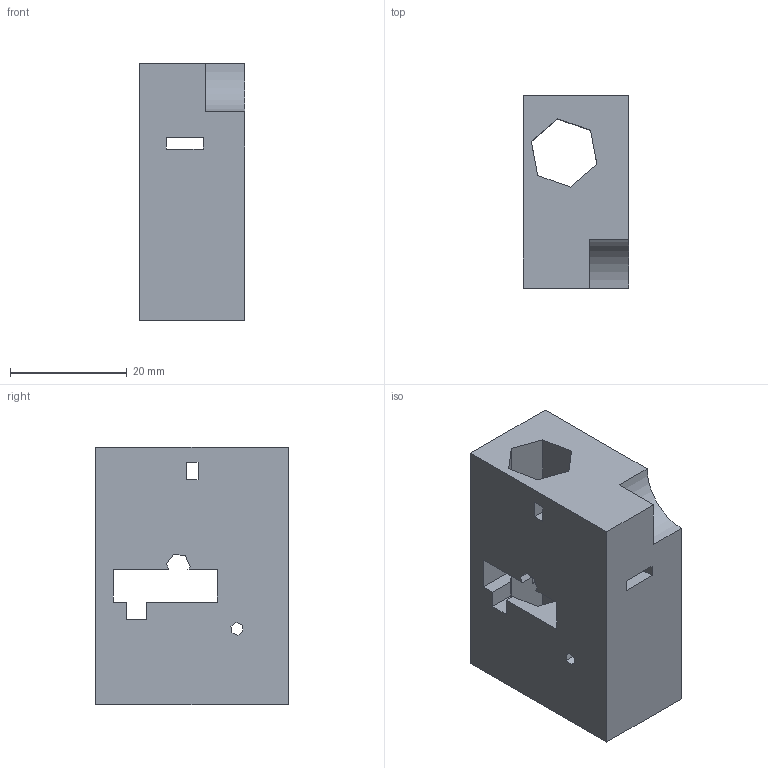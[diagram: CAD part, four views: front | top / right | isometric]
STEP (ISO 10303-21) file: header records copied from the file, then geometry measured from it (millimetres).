
FILE_DESCRIPTION(('Open CASCADE Model'),'2;1');
FILE_NAME('Open CASCADE Shape Model','2021-05-07T16:56:08',('Author'),( 'Open CASCADE'),'Open CASCADE STEP processor 7.4','Open CASCADE 7.4' ,'Unknown');
FILE_SCHEMA(('AUTOMOTIVE_DESIGN { 1 0 10303 214 1 1 1 1 }'));
Length unit declared in the file: millimetre
Products named in the file (1): Open CASCADE STEP translator 7.4 810
Bounding box: 18.12 x 33.05 x 44.17 mm (x, y, z)
Volume: 19989.7 mm3; surface area: 8080.6 mm2
Topology: 1 solids, 1 shells, 64 faces, 201 edges, 134 vertices
Faces by surface type: plane 63, cylinder 1
Entity records: 4680 total; most frequent: CARTESIAN_POINT 964, DIRECTION 573, LINE 437, VECTOR 437, ORIENTED_EDGE 402, PCURVE 402, DEFINITIONAL_REPRESENTATION 402, EDGE_CURVE 201
